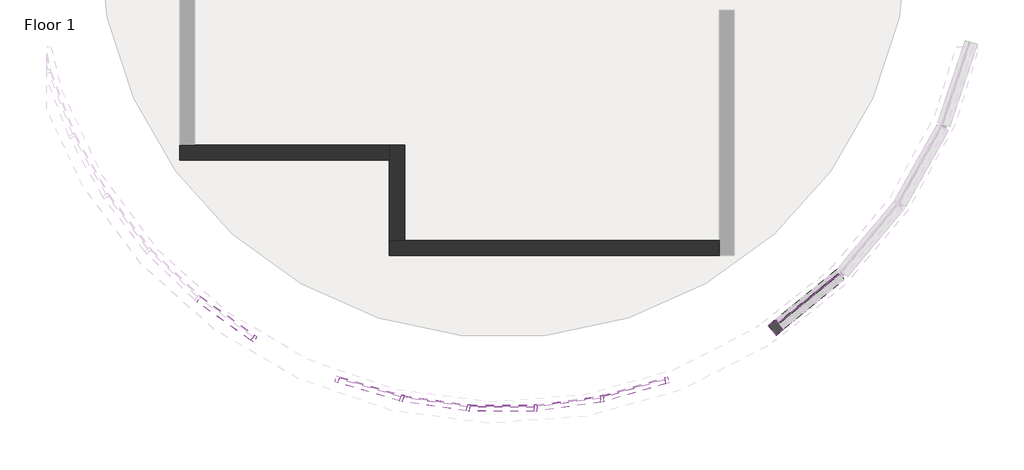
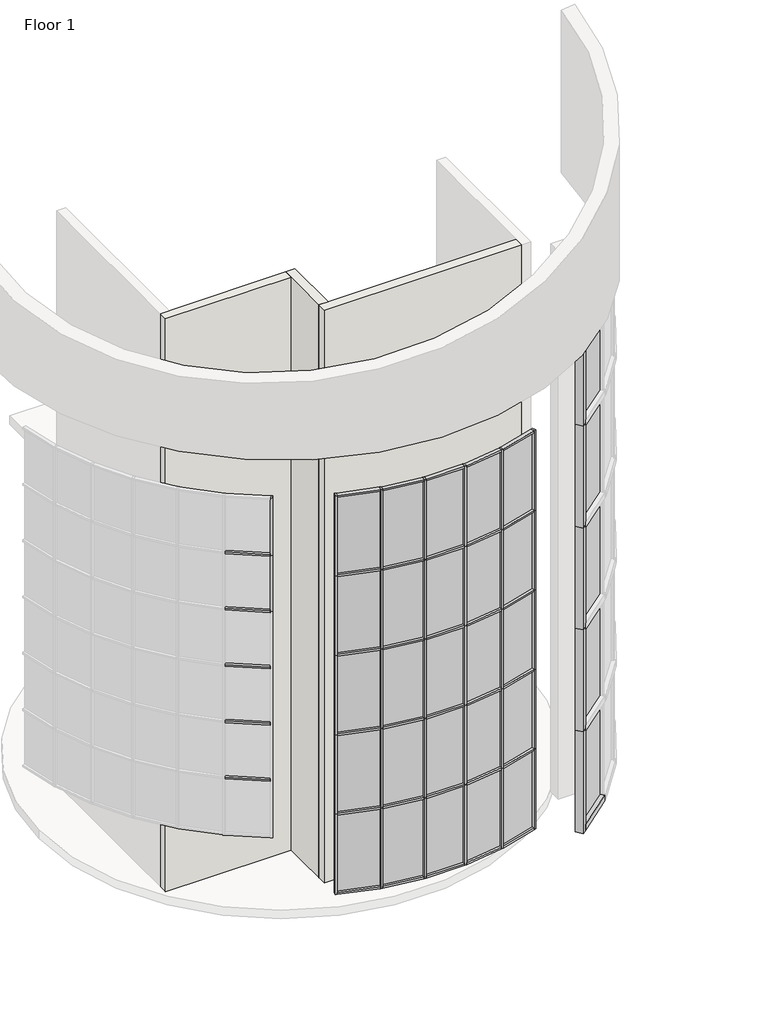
# One storey, part 5 of 11: 73 members, 30 plates, 3 walls.
"""IFC4 building model written with IfcOpenShell, lengths in millimetres."""

from ifc_helpers import new_model, si_unit, origin, place, context, project, spatial, faceted_brep, transform, mapped, element, save
from components import member_1ee05d72, member_0388ecb7, member_7395c1fc, member_652a6926, member_d66ac510, member_25577aa7, member_e54787da, member_d1cb1681, member_275a0903, member_ef0f639d, member_5da9506a, member_3a2f4316, member_60f5540e, member_ac1621ee, member_98c0bc9c, member_4370fb8a, system_panel_glazed_3a20483a, system_panel_glazed_3dc34c55, system_panel_glazed_36e52168, system_panel_glazed_ff630af2, system_panel_glazed_52effc56

model = new_model("IFC4")

# Units and contexts
model_context = context("Model", 3, world=origin())
ifc_project = project(units=[si_unit("LENGTHUNIT", "METRE", prefix="MILLI")], contexts=[model_context])

# Site, building, storey
site = spatial("IfcSite", under=ifc_project)
building = spatial("IfcBuilding", under=site)
storey = spatial("IfcBuildingStorey", under=building, Name="Floor 1", Elevation=0.0)

# Members
placement = place(None, origin())
member_shape = member_1ee05d72(model_context)
element("IfcMember", 1, ObjectType="Rectangular Mullion1 : 2.5\" x 5\" rectangular", at=placement, inside=storey, context=model_context, shape_type="MappedRepresentation", body=[
    mapped(member_shape, transform((9626.5736728, 10239.6743059, 15849.6), x_axis=(0.0, 0.0, 1.0), y_axis=(0.2778402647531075, -0.9606272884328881, 0.0), z_axis=(0.9606272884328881, 0.2778402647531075, 0.0))),
])
element("IfcMember", 2, ObjectType="Rectangular Mullion1 : 2.5\" x 5\" rectangular", at=placement, inside=storey, context=model_context, shape_type="MappedRepresentation", body=[
    mapped(member_shape, transform((2992.9067416, 10256.328301, 1524.0), x_axis=(0.0, 0.0, -1.0), y_axis=(-0.2826600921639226, -0.9592201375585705, 0.0), z_axis=(-0.9592201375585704, 0.28266009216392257, 0.0))),
])
member_2_shape = member_0388ecb7(model_context)
element("IfcMember", 3, ObjectType="Rectangular Mullion1 : 2.5\" x 5\" rectangular", at=placement, inside=storey, context=model_context, shape_type="MappedRepresentation", body=[
    mapped(member_2_shape, transform((4242.5484, 9888.0876725, 15849.6), x_axis=(0.0, 0.0, 1.0), y_axis=(-0.2826600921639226, -0.9592201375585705, 0.0), z_axis=(0.9592201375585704, -0.28266009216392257, 0.0))),
])
member_3_shape = member_7395c1fc(model_context)
element("IfcMember", 4, ObjectType="Rectangular Mullion1 : 2.5\" x 5\" rectangular", at=placement, inside=storey, context=model_context, shape_type="MappedRepresentation", body=[
    mapped(member_3_shape, transform((5593.7638345, 9687.9803536, 15849.6), x_axis=(0.0, 0.0, 1.0), y_axis=(-0.1432223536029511, -0.9896905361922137, 0.0), z_axis=(0.9896905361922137, -0.1432223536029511, 0.0))),
])
element("IfcMember", 5, ObjectType="Rectangular Mullion1 : 2.5\" x 5\" rectangular", at=placement, inside=storey, context=model_context, shape_type="MappedRepresentation", body=[
    mapped(member_3_shape, transform((6959.7006673, 9680.082711, 15849.6), x_axis=(0.0, 0.0, 1.0), y_axis=(-0.0025105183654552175, -0.9999968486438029, 0.0), z_axis=(0.9999968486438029, -0.0025105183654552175, 0.0))),
])
element("IfcMember", 6, ObjectType="Rectangular Mullion1 : 2.5\" x 5\" rectangular", at=placement, inside=storey, context=model_context, shape_type="MappedRepresentation", body=[
    mapped(member_3_shape, transform((8313.1537957, 9864.5018892, 15849.6), x_axis=(0.0, 0.0, 1.0), y_axis=(0.13825129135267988, -0.9903971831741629, 0.0), z_axis=(0.9903971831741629, 0.13825129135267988, 0.0))),
])
element("IfcMember", 7, ObjectType="Rectangular Mullion1 : 2.5\" x 5\" rectangular", at=placement, inside=storey, context=model_context, shape_type="MappedRepresentation", body=[
    mapped(member_3_shape, transform((4304.4263139, 9874.5659049, 1524.0), x_axis=(0.0, 0.0, -1.0), y_axis=(-0.14322235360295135, -0.9896905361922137, 0.0), z_axis=(-0.9896905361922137, 0.14322235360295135, 0.0))),
])
element("IfcMember", 8, ObjectType="Rectangular Mullion1 : 2.5\" x 5\" rectangular", at=placement, inside=storey, context=model_context, shape_type="MappedRepresentation", body=[
    mapped(member_3_shape, transform((5656.9364089, 9683.3533349, 1524.0), x_axis=(0.0, 0.0, -1.0), y_axis=(-0.0025105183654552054, -0.9999968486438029, 0.0), z_axis=(-0.9999968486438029, 0.0025105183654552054, 0.0))),
])
element("IfcMember", 9, ObjectType="Rectangular Mullion1 : 2.5\" x 5\" rectangular", at=placement, inside=storey, context=model_context, shape_type="MappedRepresentation", body=[
    mapped(member_3_shape, transform((7022.8956778, 9684.3924805, 1524.0), x_axis=(0.0, 0.0, -1.0), y_axis=(0.13825129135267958, -0.990397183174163, 0.0), z_axis=(-0.990397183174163, -0.13825129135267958, 0.0))),
])
element("IfcMember", 10, ObjectType="Rectangular Mullion1 : 2.5\" x 5\" rectangular", at=placement, inside=storey, context=model_context, shape_type="MappedRepresentation", body=[
    mapped(member_2_shape, transform((8375.0988227, 9877.7127961, 1524.0), x_axis=(0.0, 0.0, -1.0), y_axis=(0.2778402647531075, -0.9606272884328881, 0.0), z_axis=(-0.9606272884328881, -0.2778402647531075, 0.0))),
])
member_4_shape = member_652a6926(model_context)
element("IfcMember", 11, ObjectType="Rectangular Mullion1 : 2.5\" x 5\" rectangular", at=placement, inside=storey, context=model_context, shape_type="MappedRepresentation", body=[
    mapped(member_4_shape, transform((4242.5484, 9888.0876725, 4408.17), x_axis=(0.0, 0.0, 1.0), y_axis=(-0.2826600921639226, -0.9592201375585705, 0.0), z_axis=(0.9592201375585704, -0.28266009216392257, 0.0))),
])
member_5_shape = member_d66ac510(model_context)
element("IfcMember", 12, ObjectType="Rectangular Mullion1 : 2.5\" x 5\" rectangular", at=placement, inside=storey, context=model_context, shape_type="MappedRepresentation", body=[
    mapped(member_5_shape, transform((5593.7638345, 9687.9803536, 4408.17), x_axis=(0.0, 0.0, 1.0), y_axis=(-0.14322235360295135, -0.9896905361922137, 0.0), z_axis=(0.9896905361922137, -0.14322235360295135, 0.0))),
])
element("IfcMember", 13, ObjectType="Rectangular Mullion1 : 2.5\" x 5\" rectangular", at=placement, inside=storey, context=model_context, shape_type="MappedRepresentation", body=[
    mapped(member_5_shape, transform((6959.7006673, 9680.082711, 4408.17), x_axis=(0.0, 0.0, 1.0), y_axis=(-0.0025105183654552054, -0.9999968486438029, 0.0), z_axis=(0.9999968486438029, -0.0025105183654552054, 0.0))),
])
element("IfcMember", 14, ObjectType="Rectangular Mullion1 : 2.5\" x 5\" rectangular", at=placement, inside=storey, context=model_context, shape_type="MappedRepresentation", body=[
    mapped(member_5_shape, transform((8313.1537957, 9864.5018892, 4408.17), x_axis=(0.0, 0.0, 1.0), y_axis=(0.13825129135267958, -0.990397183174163, 0.0), z_axis=(0.990397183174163, 0.13825129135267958, 0.0))),
])
member_6_shape = member_25577aa7(model_context)
element("IfcMember", 15, ObjectType="Rectangular Mullion1 : 2.5\" x 5\" rectangular", at=placement, inside=storey, context=model_context, shape_type="MappedRepresentation", body=[
    mapped(member_6_shape, transform((9626.5736728, 10239.6743059, 4408.17), x_axis=(0.0, 0.0, 1.0), y_axis=(0.2778402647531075, -0.9606272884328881, 0.0), z_axis=(0.9606272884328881, 0.2778402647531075, 0.0))),
])
element("IfcMember", 16, ObjectType="Rectangular Mullion1 : 2.5\" x 5\" rectangular", at=placement, inside=storey, context=model_context, shape_type="MappedRepresentation", body=[
    mapped(member_4_shape, transform((4242.5484, 9888.0876725, 7260.59), x_axis=(0.0, 0.0, 1.0), y_axis=(-0.2826600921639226, -0.9592201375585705, 0.0), z_axis=(0.9592201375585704, -0.28266009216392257, 0.0))),
])
element("IfcMember", 17, ObjectType="Rectangular Mullion1 : 2.5\" x 5\" rectangular", at=placement, inside=storey, context=model_context, shape_type="MappedRepresentation", body=[
    mapped(member_4_shape, transform((4242.5484, 9888.0876725, 10113.01), x_axis=(0.0, 0.0, 1.0), y_axis=(-0.2826600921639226, -0.9592201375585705, 0.0), z_axis=(0.9592201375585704, -0.28266009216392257, 0.0))),
])
element("IfcMember", 18, ObjectType="Rectangular Mullion1 : 2.5\" x 5\" rectangular", at=placement, inside=storey, context=model_context, shape_type="MappedRepresentation", body=[
    mapped(member_5_shape, transform((5593.7638345, 9687.9803536, 7260.59), x_axis=(0.0, 0.0, 1.0), y_axis=(-0.14322235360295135, -0.9896905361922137, 0.0), z_axis=(0.9896905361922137, -0.14322235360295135, 0.0))),
])
element("IfcMember", 19, ObjectType="Rectangular Mullion1 : 2.5\" x 5\" rectangular", at=placement, inside=storey, context=model_context, shape_type="MappedRepresentation", body=[
    mapped(member_5_shape, transform((6959.7006673, 9680.082711, 7260.59), x_axis=(0.0, 0.0, 1.0), y_axis=(-0.0025105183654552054, -0.9999968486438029, 0.0), z_axis=(0.9999968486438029, -0.0025105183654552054, 0.0))),
])
element("IfcMember", 20, ObjectType="Rectangular Mullion1 : 2.5\" x 5\" rectangular", at=placement, inside=storey, context=model_context, shape_type="MappedRepresentation", body=[
    mapped(member_5_shape, transform((8313.1537957, 9864.5018892, 7260.59), x_axis=(0.0, 0.0, 1.0), y_axis=(0.13825129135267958, -0.990397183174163, 0.0), z_axis=(0.990397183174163, 0.13825129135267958, 0.0))),
])
element("IfcMember", 21, ObjectType="Rectangular Mullion1 : 2.5\" x 5\" rectangular", at=placement, inside=storey, context=model_context, shape_type="MappedRepresentation", body=[
    mapped(member_5_shape, transform((5593.7638345, 9687.9803536, 10113.01), x_axis=(0.0, 0.0, 1.0), y_axis=(-0.14322235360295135, -0.9896905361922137, 0.0), z_axis=(0.9896905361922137, -0.14322235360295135, 0.0))),
])
element("IfcMember", 22, ObjectType="Rectangular Mullion1 : 2.5\" x 5\" rectangular", at=placement, inside=storey, context=model_context, shape_type="MappedRepresentation", body=[
    mapped(member_5_shape, transform((6959.7006673, 9680.082711, 10113.01), x_axis=(0.0, 0.0, 1.0), y_axis=(-0.0025105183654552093, -0.9999968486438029, 0.0), z_axis=(0.9999968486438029, -0.0025105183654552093, 0.0))),
])
element("IfcMember", 23, ObjectType="Rectangular Mullion1 : 2.5\" x 5\" rectangular", at=placement, inside=storey, context=model_context, shape_type="MappedRepresentation", body=[
    mapped(member_5_shape, transform((8313.1537957, 9864.5018892, 10113.01), x_axis=(0.0, 0.0, 1.0), y_axis=(0.13825129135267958, -0.990397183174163, 0.0), z_axis=(0.990397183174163, 0.13825129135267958, 0.0))),
])
element("IfcMember", 24, ObjectType="Rectangular Mullion1 : 2.5\" x 5\" rectangular", at=placement, inside=storey, context=model_context, shape_type="MappedRepresentation", body=[
    mapped(member_6_shape, transform((9626.5736728, 10239.6743059, 7260.59), x_axis=(0.0, 0.0, 1.0), y_axis=(0.2778402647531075, -0.9606272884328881, 0.0), z_axis=(0.9606272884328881, 0.2778402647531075, 0.0))),
])
element("IfcMember", 25, ObjectType="Rectangular Mullion1 : 2.5\" x 5\" rectangular", at=placement, inside=storey, context=model_context, shape_type="MappedRepresentation", body=[
    mapped(member_6_shape, transform((9626.5736728, 10239.6743059, 10113.01), x_axis=(0.0, 0.0, 1.0), y_axis=(0.2778402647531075, -0.9606272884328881, 0.0), z_axis=(0.9606272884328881, 0.2778402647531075, 0.0))),
])
element("IfcMember", 26, ObjectType="Rectangular Mullion1 : 2.5\" x 5\" rectangular", at=placement, inside=storey, context=model_context, shape_type="MappedRepresentation", body=[
    mapped(member_4_shape, transform((4242.5484, 9888.0876725, 12965.43), x_axis=(0.0, 0.0, 1.0), y_axis=(-0.2826600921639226, -0.9592201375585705, 0.0), z_axis=(0.9592201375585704, -0.28266009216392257, 0.0))),
])
element("IfcMember", 27, ObjectType="Rectangular Mullion1 : 2.5\" x 5\" rectangular", at=placement, inside=storey, context=model_context, shape_type="MappedRepresentation", body=[
    mapped(member_5_shape, transform((5593.7638345, 9687.9803536, 12965.43), x_axis=(0.0, 0.0, 1.0), y_axis=(-0.14322235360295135, -0.9896905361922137, 0.0), z_axis=(0.9896905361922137, -0.14322235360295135, 0.0))),
])
element("IfcMember", 28, ObjectType="Rectangular Mullion1 : 2.5\" x 5\" rectangular", at=placement, inside=storey, context=model_context, shape_type="MappedRepresentation", body=[
    mapped(member_5_shape, transform((6959.7006673, 9680.082711, 12965.43), x_axis=(0.0, 0.0, 1.0), y_axis=(-0.0025105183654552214, -0.9999968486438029, 0.0), z_axis=(0.9999968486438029, -0.0025105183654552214, 0.0))),
])
element("IfcMember", 29, ObjectType="Rectangular Mullion1 : 2.5\" x 5\" rectangular", at=placement, inside=storey, context=model_context, shape_type="MappedRepresentation", body=[
    mapped(member_5_shape, transform((8313.1537957, 9864.5018892, 12965.43), x_axis=(0.0, 0.0, 1.0), y_axis=(0.13825129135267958, -0.990397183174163, 0.0), z_axis=(0.990397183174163, 0.13825129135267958, 0.0))),
])
element("IfcMember", 30, ObjectType="Rectangular Mullion1 : 2.5\" x 5\" rectangular", at=placement, inside=storey, context=model_context, shape_type="MappedRepresentation", body=[
    mapped(member_6_shape, transform((9626.5736728, 10239.6743059, 12965.43), x_axis=(0.0, 0.0, 1.0), y_axis=(0.2778402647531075, -0.9606272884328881, 0.0), z_axis=(0.9606272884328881, 0.2778402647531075, 0.0))),
])
member_7_shape = member_e54787da(model_context)
element("IfcMember", 31, ObjectType="Rectangular Mullion1 : 2.5\" x 5\" rectangular", at=placement, inside=storey, context=model_context, shape_type="MappedRepresentation", body=[
    mapped(member_7_shape, transform((4273.0036394, 9879.1132146, 1524.0), x_axis=(0.9771213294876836, -0.21268264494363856, 0.0), y_axis=(-0.21268264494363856, -0.9771213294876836, 0.0), z_axis=(0.0, 0.0, -1.0))),
])
element("IfcMember", 32, ObjectType="Rectangular Mullion1 : 2.5\" x 5\" rectangular", at=placement, inside=storey, context=model_context, shape_type="MappedRepresentation", body=[
    mapped(member_7_shape, transform((5625.186509, 9683.4330439, 1524.0), x_axis=(0.9973283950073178, -0.07304842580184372, 0.0), y_axis=(-0.07304842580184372, -0.9973283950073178, 0.0), z_axis=(0.0, 0.0, -1.0))),
])
element("IfcMember", 33, ObjectType="Rectangular Mullion1 : 2.5\" x 5\" rectangular", at=placement, inside=storey, context=model_context, shape_type="MappedRepresentation", body=[
    mapped(member_7_shape, transform((6991.4505673, 9680.003002, 1524.0), x_axis=(0.9976826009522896, 0.06803989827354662, 0.0), y_axis=(0.06803989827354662, -0.9976826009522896, 0.0), z_axis=(0.0, 0.0, -1.0))),
])
element("IfcMember", 34, ObjectType="Rectangular Mullion1 : 2.5\" x 5\" rectangular", at=placement, inside=storey, context=model_context, shape_type="MappedRepresentation", body=[
    mapped(member_7_shape, transform((8344.5989063, 9868.8913677, 1524.0), x_axis=(0.9781768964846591, 0.20777381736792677, 0.0), y_axis=(0.20777381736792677, -0.9781768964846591, 0.0), z_axis=(0.0, 0.0, -1.0))),
])
member_8_shape = member_d1cb1681(model_context)
element("IfcMember", 35, ObjectType="Rectangular Mullion1 : 2.5\" x 5\" rectangular", at=placement, inside=storey, context=model_context, shape_type="MappedRepresentation", body=[
    mapped(member_8_shape, transform((4273.0036394, 9879.1132146, 4408.17), x_axis=(0.9771213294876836, -0.21268264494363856, 0.0), y_axis=(-0.21268264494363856, -0.9771213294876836, 0.0), z_axis=(0.0, 0.0, -1.0))),
])
element("IfcMember", 36, ObjectType="Rectangular Mullion1 : 2.5\" x 5\" rectangular", at=placement, inside=storey, context=model_context, shape_type="MappedRepresentation", body=[
    mapped(member_8_shape, transform((5625.186509, 9683.4330439, 4408.17), x_axis=(0.9973283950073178, -0.07304842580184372, 0.0), y_axis=(-0.07304842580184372, -0.9973283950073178, 0.0), z_axis=(0.0, 0.0, -1.0))),
])
element("IfcMember", 37, ObjectType="Rectangular Mullion1 : 2.5\" x 5\" rectangular", at=placement, inside=storey, context=model_context, shape_type="MappedRepresentation", body=[
    mapped(member_8_shape, transform((6991.4505673, 9680.003002, 4408.17), x_axis=(0.9976826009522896, 0.06803989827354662, 0.0), y_axis=(0.06803989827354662, -0.9976826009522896, 0.0), z_axis=(0.0, 0.0, -1.0))),
])
element("IfcMember", 38, ObjectType="Rectangular Mullion1 : 2.5\" x 5\" rectangular", at=placement, inside=storey, context=model_context, shape_type="MappedRepresentation", body=[
    mapped(member_8_shape, transform((8344.5989063, 9868.8913677, 4408.17), x_axis=(0.9781768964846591, 0.20777381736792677, 0.0), y_axis=(0.20777381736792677, -0.9781768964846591, 0.0), z_axis=(0.0, 0.0, -1.0))),
])
element("IfcMember", 39, ObjectType="Rectangular Mullion1 : 2.5\" x 5\" rectangular", at=placement, inside=storey, context=model_context, shape_type="MappedRepresentation", body=[
    mapped(member_8_shape, transform((4273.0036394, 9879.1132146, 7260.59), x_axis=(0.9771213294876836, -0.21268264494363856, 0.0), y_axis=(-0.21268264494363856, -0.9771213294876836, 0.0), z_axis=(0.0, 0.0, -1.0))),
])
element("IfcMember", 40, ObjectType="Rectangular Mullion1 : 2.5\" x 5\" rectangular", at=placement, inside=storey, context=model_context, shape_type="MappedRepresentation", body=[
    mapped(member_8_shape, transform((5625.186509, 9683.4330439, 7260.59), x_axis=(0.9973283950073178, -0.07304842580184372, 0.0), y_axis=(-0.07304842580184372, -0.9973283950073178, 0.0), z_axis=(0.0, 0.0, -1.0))),
])
element("IfcMember", 41, ObjectType="Rectangular Mullion1 : 2.5\" x 5\" rectangular", at=placement, inside=storey, context=model_context, shape_type="MappedRepresentation", body=[
    mapped(member_8_shape, transform((6991.4505673, 9680.003002, 7260.59), x_axis=(0.9976826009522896, 0.06803989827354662, 0.0), y_axis=(0.06803989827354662, -0.9976826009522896, 0.0), z_axis=(0.0, 0.0, -1.0))),
])
element("IfcMember", 42, ObjectType="Rectangular Mullion1 : 2.5\" x 5\" rectangular", at=placement, inside=storey, context=model_context, shape_type="MappedRepresentation", body=[
    mapped(member_8_shape, transform((8344.5989063, 9868.8913677, 7260.59), x_axis=(0.9781768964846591, 0.20777381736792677, 0.0), y_axis=(0.20777381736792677, -0.9781768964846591, 0.0), z_axis=(0.0, 0.0, -1.0))),
])
element("IfcMember", 43, ObjectType="Rectangular Mullion1 : 2.5\" x 5\" rectangular", at=placement, inside=storey, context=model_context, shape_type="MappedRepresentation", body=[
    mapped(member_8_shape, transform((4273.0036394, 9879.1132146, 10113.01), x_axis=(0.9771213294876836, -0.21268264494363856, 0.0), y_axis=(-0.21268264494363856, -0.9771213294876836, 0.0), z_axis=(0.0, 0.0, -1.0))),
])
element("IfcMember", 44, ObjectType="Rectangular Mullion1 : 2.5\" x 5\" rectangular", at=placement, inside=storey, context=model_context, shape_type="MappedRepresentation", body=[
    mapped(member_8_shape, transform((5625.186509, 9683.4330439, 10113.01), x_axis=(0.9973283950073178, -0.07304842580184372, 0.0), y_axis=(-0.07304842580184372, -0.9973283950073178, 0.0), z_axis=(0.0, 0.0, -1.0))),
])
element("IfcMember", 45, ObjectType="Rectangular Mullion1 : 2.5\" x 5\" rectangular", at=placement, inside=storey, context=model_context, shape_type="MappedRepresentation", body=[
    mapped(member_8_shape, transform((6991.4505673, 9680.003002, 10113.01), x_axis=(0.9976826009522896, 0.06803989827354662, 0.0), y_axis=(0.06803989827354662, -0.9976826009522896, 0.0), z_axis=(0.0, 0.0, -1.0))),
])
element("IfcMember", 46, ObjectType="Rectangular Mullion1 : 2.5\" x 5\" rectangular", at=placement, inside=storey, context=model_context, shape_type="MappedRepresentation", body=[
    mapped(member_8_shape, transform((8344.5989063, 9868.8913677, 10113.01), x_axis=(0.9781768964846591, 0.20777381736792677, 0.0), y_axis=(0.20777381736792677, -0.9781768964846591, 0.0), z_axis=(0.0, 0.0, -1.0))),
])
element("IfcMember", 47, ObjectType="Rectangular Mullion1 : 2.5\" x 5\" rectangular", at=placement, inside=storey, context=model_context, shape_type="MappedRepresentation", body=[
    mapped(member_7_shape, transform((4273.0036394, 9879.1132146, 12965.43), x_axis=(0.9771213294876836, -0.21268264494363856, 0.0), y_axis=(-0.21268264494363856, -0.9771213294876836, 0.0), z_axis=(0.0, 0.0, -1.0))),
])
element("IfcMember", 48, ObjectType="Rectangular Mullion1 : 2.5\" x 5\" rectangular", at=placement, inside=storey, context=model_context, shape_type="MappedRepresentation", body=[
    mapped(member_7_shape, transform((5625.186509, 9683.4330439, 12965.43), x_axis=(0.9973283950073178, -0.07304842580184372, 0.0), y_axis=(-0.07304842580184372, -0.9973283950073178, 0.0), z_axis=(0.0, 0.0, -1.0))),
])
element("IfcMember", 49, ObjectType="Rectangular Mullion1 : 2.5\" x 5\" rectangular", at=placement, inside=storey, context=model_context, shape_type="MappedRepresentation", body=[
    mapped(member_7_shape, transform((6991.4505673, 9680.003002, 12965.43), x_axis=(0.9976826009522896, 0.06803989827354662, 0.0), y_axis=(0.06803989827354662, -0.9976826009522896, 0.0), z_axis=(0.0, 0.0, -1.0))),
])
element("IfcMember", 50, ObjectType="Rectangular Mullion1 : 2.5\" x 5\" rectangular", at=placement, inside=storey, context=model_context, shape_type="MappedRepresentation", body=[
    mapped(member_7_shape, transform((8344.5989063, 9868.8913677, 12965.43), x_axis=(0.9781768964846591, 0.20777381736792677, 0.0), y_axis=(0.20777381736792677, -0.9781768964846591, 0.0), z_axis=(0.0, 0.0, -1.0))),
])
member_9_shape = member_275a0903(model_context)
element("IfcMember", 51, ObjectType="Rectangular Mullion1 : 2.5\" x 5\" rectangular", at=placement, inside=storey, context=model_context, shape_type="MappedRepresentation", body=[
    mapped(member_9_shape, transform((1235.4610146, 11112.8592493, 5710.7666667), x_axis=(0.0, 0.0, 1.0), y_axis=(-0.5828238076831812, -0.8125985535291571, 0.0), z_axis=(0.8125985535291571, -0.5828238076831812, 0.0))),
])
element("IfcMember", 52, ObjectType="Rectangular Mullion1 : 2.5\" x 5\" rectangular", at=placement, inside=storey, context=model_context, shape_type="MappedRepresentation", body=[
    mapped(member_9_shape, transform((1235.4610146, 11112.8592493, 7732.1833333), x_axis=(0.0, 0.0, 1.0), y_axis=(-0.5828238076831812, -0.8125985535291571, 0.0), z_axis=(0.8125985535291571, -0.5828238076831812, 0.0))),
])
element("IfcMember", 53, ObjectType="Rectangular Mullion1 : 2.5\" x 5\" rectangular", at=placement, inside=storey, context=model_context, shape_type="MappedRepresentation", body=[
    mapped(member_9_shape, transform((1235.4610146, 11112.8592493, 9753.6), x_axis=(0.0, 0.0, 1.0), y_axis=(-0.5828238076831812, -0.8125985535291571, 0.0), z_axis=(0.8125985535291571, -0.5828238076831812, 0.0))),
])
element("IfcMember", 54, ObjectType="Rectangular Mullion1 : 2.5\" x 5\" rectangular", at=placement, inside=storey, context=model_context, shape_type="MappedRepresentation", body=[
    mapped(member_9_shape, transform((1235.4610146, 11112.8592493, 11775.0166667), x_axis=(0.0, 0.0, 1.0), y_axis=(-0.5828238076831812, -0.8125985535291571, 0.0), z_axis=(0.8125985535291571, -0.5828238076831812, 0.0))),
])
element("IfcMember", 55, ObjectType="Rectangular Mullion1 : 2.5\" x 5\" rectangular", at=placement, inside=storey, context=model_context, shape_type="MappedRepresentation", body=[
    mapped(member_9_shape, transform((1235.4610146, 11112.8592493, 13796.4333333), x_axis=(0.0, 0.0, 1.0), y_axis=(-0.5828238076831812, -0.8125985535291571, 0.0), z_axis=(0.8125985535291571, -0.5828238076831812, 0.0))),
])
member_10_shape = member_ef0f639d(model_context)
element("IfcMember", 56, ObjectType="Rectangular Mullion1 : 2.5\" x 5\" rectangular", at=placement, inside=storey, context=model_context, shape_type="MappedRepresentation", body=[
    mapped(member_10_shape, transform((9687.5735056, 10257.3171627, 1524.0), x_axis=(0.9606272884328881, 0.2778402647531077, 0.0), y_axis=(0.2778402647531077, -0.9606272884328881, 0.0), z_axis=(0.0, 0.0, -1.0))),
])
element("IfcMember", 57, ObjectType="Rectangular Mullion1 : 2.5\" x 5\" rectangular", at=placement, inside=storey, context=model_context, shape_type="MappedRepresentation", body=[
    mapped(member_10_shape, transform((2931.9962628, 10274.2772169, 15849.6), x_axis=(-0.9592201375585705, 0.2826600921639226, 0.0), y_axis=(-0.2826600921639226, -0.9592201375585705, 0.0), z_axis=(0.0, 0.0, 1.0))),
])
member_11_shape = member_5da9506a(model_context)
element("IfcMember", 58, ObjectType="Rectangular Mullion1 : 2.5\" x 5\" rectangular", at=placement, inside=storey, context=model_context, shape_type="MappedRepresentation", body=[
    mapped(member_11_shape, transform((9687.5735056, 10257.3171627, 4408.17), x_axis=(0.9606272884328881, 0.27784026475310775, 0.0), y_axis=(0.27784026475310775, -0.9606272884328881, 0.0), z_axis=(0.0, 0.0, -1.0))),
])
element("IfcMember", 59, ObjectType="Rectangular Mullion1 : 2.5\" x 5\" rectangular", at=placement, inside=storey, context=model_context, shape_type="MappedRepresentation", body=[
    mapped(member_11_shape, transform((9687.5735056, 10257.3171627, 7260.59), x_axis=(0.9606272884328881, 0.27784026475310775, 0.0), y_axis=(0.27784026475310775, -0.9606272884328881, 0.0), z_axis=(0.0, 0.0, -1.0))),
])
element("IfcMember", 60, ObjectType="Rectangular Mullion1 : 2.5\" x 5\" rectangular", at=placement, inside=storey, context=model_context, shape_type="MappedRepresentation", body=[
    mapped(member_11_shape, transform((9687.5735056, 10257.3171627, 10113.01), x_axis=(0.9606272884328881, 0.27784026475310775, 0.0), y_axis=(0.27784026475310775, -0.9606272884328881, 0.0), z_axis=(0.0, 0.0, -1.0))),
])
element("IfcMember", 61, ObjectType="Rectangular Mullion1 : 2.5\" x 5\" rectangular", at=placement, inside=storey, context=model_context, shape_type="MappedRepresentation", body=[
    mapped(member_10_shape, transform((9687.5735056, 10257.3171627, 12965.43), x_axis=(0.9606272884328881, 0.2778402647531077, 0.0), y_axis=(0.2778402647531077, -0.9606272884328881, 0.0), z_axis=(0.0, 0.0, -1.0))),
])
element("IfcMember", 62, ObjectType="Rectangular Mullion1 : 2.5\" x 5\" rectangular", at=placement, inside=storey, context=model_context, shape_type="MappedRepresentation", body=[
    mapped(member_10_shape, transform((2931.9962628, 10274.2772169, 4408.17), x_axis=(-0.9592201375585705, 0.2826600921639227, 0.0), y_axis=(-0.2826600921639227, -0.9592201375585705, 0.0), z_axis=(0.0, 0.0, 1.0))),
])
element("IfcMember", 63, ObjectType="Rectangular Mullion1 : 2.5\" x 5\" rectangular", at=placement, inside=storey, context=model_context, shape_type="MappedRepresentation", body=[
    mapped(member_11_shape, transform((2931.9962628, 10274.2772169, 7260.59), x_axis=(-0.9592201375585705, 0.2826600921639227, 0.0), y_axis=(-0.2826600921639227, -0.9592201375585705, 0.0), z_axis=(0.0, 0.0, 1.0))),
])
element("IfcMember", 64, ObjectType="Rectangular Mullion1 : 2.5\" x 5\" rectangular", at=placement, inside=storey, context=model_context, shape_type="MappedRepresentation", body=[
    mapped(member_11_shape, transform((2931.9962628, 10274.2772169, 10113.01), x_axis=(-0.9592201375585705, 0.2826600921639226, 0.0), y_axis=(-0.2826600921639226, -0.9592201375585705, 0.0), z_axis=(0.0, 0.0, 1.0))),
])
element("IfcMember", 65, ObjectType="Rectangular Mullion1 : 2.5\" x 5\" rectangular", at=placement, inside=storey, context=model_context, shape_type="MappedRepresentation", body=[
    mapped(member_11_shape, transform((2931.9962628, 10274.2772169, 12965.43), x_axis=(-0.9592201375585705, 0.2826600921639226, 0.0), y_axis=(-0.2826600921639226, -0.9592201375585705, 0.0), z_axis=(0.0, 0.0, 1.0))),
])
member_12_shape = member_3a2f4316(model_context)
element("IfcMember", 66, ObjectType="Rectangular Mullion1 : 2.5\" x 5\" rectangular", at=placement, inside=storey, context=model_context, shape_type="MappedRepresentation", body=[
    mapped(member_12_shape, transform((1287.0610227, 11075.8499375, 11775.0166667), x_axis=(0.8125985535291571, -0.5828238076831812, 0.0), y_axis=(-0.5828238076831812, -0.8125985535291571, 0.0), z_axis=(0.0, 0.0, -1.0))),
])
member_13_shape = member_60f5540e(model_context)
element("IfcMember", 67, ObjectType="Rectangular Mullion1 : 2.5\" x 5\" rectangular", at=placement, inside=storey, context=model_context, shape_type="MappedRepresentation", body=[
    mapped(member_13_shape, transform((1287.0610227, 11075.8499375, 13796.4333333), x_axis=(0.8125985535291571, -0.5828238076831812, 0.0), y_axis=(-0.5828238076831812, -0.8125985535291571, 0.0), z_axis=(0.0, 0.0, -1.0))),
])
member_14_shape = member_ac1621ee(model_context)
element("IfcMember", 68, ObjectType="Rectangular Mullion1 : 8\" x 10\" rectangular", at=placement, inside=storey, context=model_context, shape_type="MappedRepresentation", body=[
    mapped(member_14_shape, transform((11956.7860611, 11392.3328441, 0.0), x_axis=(0.0, 0.0, -1.0), y_axis=(0.6325919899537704, -0.7744852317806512, 0.0), z_axis=(-0.7744852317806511, -0.6325919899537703, 0.0))),
])
member_15_shape = member_98c0bc9c(model_context)
element("IfcMember", 69, ObjectType="Rectangular Mullion1 : 8\" x 10\" rectangular", at=placement, inside=storey, context=model_context, shape_type="MappedRepresentation", body=[
    mapped(member_15_shape, transform((11799.410662, 11263.7901518, 14630.4), x_axis=(-0.7744852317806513, -0.6325919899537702, 0.0), y_axis=(0.6325919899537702, -0.7744852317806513, 0.0), z_axis=(0.0, 0.0, 1.0))),
])
element("IfcMember", 70, ObjectType="Rectangular Mullion1 : 8\" x 10\" rectangular", at=placement, inside=storey, context=model_context, shape_type="MappedRepresentation", body=[
    mapped(member_15_shape, transform((11799.410662, 11263.7901518, 10972.8), x_axis=(-0.7744852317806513, -0.6325919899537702, 0.0), y_axis=(0.6325919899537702, -0.7744852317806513, 0.0), z_axis=(0.0, 0.0, 1.0))),
])
element("IfcMember", 71, ObjectType="Rectangular Mullion1 : 8\" x 10\" rectangular", at=placement, inside=storey, context=model_context, shape_type="MappedRepresentation", body=[
    mapped(member_15_shape, transform((11799.410662, 11263.7901518, 7315.2), x_axis=(-0.7744852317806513, -0.6325919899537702, 0.0), y_axis=(0.6325919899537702, -0.7744852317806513, 0.0), z_axis=(0.0, 0.0, 1.0))),
])
element("IfcMember", 72, ObjectType="Rectangular Mullion1 : 8\" x 10\" rectangular", at=placement, inside=storey, context=model_context, shape_type="MappedRepresentation", body=[
    mapped(member_15_shape, transform((11799.410662, 11263.7901518, 3657.6), x_axis=(-0.7744852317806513, -0.6325919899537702, 0.0), y_axis=(0.6325919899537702, -0.7744852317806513, 0.0), z_axis=(0.0, 0.0, 1.0))),
])
member_16_shape = member_4370fb8a(model_context)
element("IfcMember", 73, ObjectType="Rectangular Mullion1 : 8\" x 10\" rectangular", at=placement, inside=storey, context=model_context, shape_type="MappedRepresentation", body=[
    mapped(member_16_shape, transform((11799.410662, 11263.7901518, 17373.6), x_axis=(-0.7744852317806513, -0.6325919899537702, 0.0), y_axis=(0.6325919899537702, -0.7744852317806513, 0.0), z_axis=(0.0, 0.0, 1.0))),
])

# Plates
system_panel_glazed_shape = system_panel_glazed_3a20483a(model_context)
element("IfcPlate", 74, ObjectType="System Panel : Glazed", at=placement, inside=storey, context=model_context, shape_type="MappedRepresentation", body=[
    mapped(system_panel_glazed_shape, transform((3617.7275708, 10072.2079868, 1587.5), x_axis=(0.9592201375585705, -0.2826600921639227, 0.0), y_axis=(0.2826600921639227, 0.9592201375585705, 0.0), z_axis=(0.0, 0.0, 1.0))),
])
element("IfcPlate", 75, ObjectType="System Panel : Glazed", at=placement, inside=storey, context=model_context, shape_type="MappedRepresentation", body=[
    mapped(system_panel_glazed_shape, transform((9000.8362478, 10058.693551, 1587.5), x_axis=(0.9606272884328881, 0.2778402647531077, 0.0), y_axis=(-0.2778402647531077, 0.9606272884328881, 0.0), z_axis=(0.0, 0.0, 1.0))),
])
element("IfcPlate", 76, ObjectType="System Panel : Glazed", at=placement, inside=storey, context=model_context, shape_type="MappedRepresentation", body=[
    mapped(system_panel_glazed_shape, transform((3617.7275708, 10072.2079868, 4439.92), x_axis=(0.9592201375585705, -0.2826600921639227, 0.0), y_axis=(0.2826600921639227, 0.9592201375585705, 0.0), z_axis=(0.0, 0.0, 1.0))),
])
element("IfcPlate", 77, ObjectType="System Panel : Glazed", at=placement, inside=storey, context=model_context, shape_type="MappedRepresentation", body=[
    mapped(system_panel_glazed_shape, transform((9000.8362478, 10058.693551, 4439.92), x_axis=(0.9606272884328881, 0.27784026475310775, 0.0), y_axis=(-0.27784026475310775, 0.9606272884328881, 0.0), z_axis=(0.0, 0.0, 1.0))),
])
element("IfcPlate", 78, ObjectType="System Panel : Glazed", at=placement, inside=storey, context=model_context, shape_type="MappedRepresentation", body=[
    mapped(system_panel_glazed_shape, transform((3617.7275708, 10072.2079868, 7292.34), x_axis=(0.9592201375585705, -0.2826600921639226, 0.0), y_axis=(0.2826600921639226, 0.9592201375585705, 0.0), z_axis=(0.0, 0.0, 1.0))),
])
element("IfcPlate", 79, ObjectType="System Panel : Glazed", at=placement, inside=storey, context=model_context, shape_type="MappedRepresentation", body=[
    mapped(system_panel_glazed_shape, transform((9000.8362478, 10058.693551, 7292.34), x_axis=(0.9606272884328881, 0.27784026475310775, 0.0), y_axis=(-0.27784026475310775, 0.9606272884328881, 0.0), z_axis=(0.0, 0.0, 1.0))),
])
element("IfcPlate", 80, ObjectType="System Panel : Glazed", at=placement, inside=storey, context=model_context, shape_type="MappedRepresentation", body=[
    mapped(system_panel_glazed_shape, transform((3617.7275708, 10072.2079868, 10144.76), x_axis=(0.9592201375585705, -0.2826600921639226, 0.0), y_axis=(0.2826600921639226, 0.9592201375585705, 0.0), z_axis=(0.0, 0.0, 1.0))),
])
element("IfcPlate", 81, ObjectType="System Panel : Glazed", at=placement, inside=storey, context=model_context, shape_type="MappedRepresentation", body=[
    mapped(system_panel_glazed_shape, transform((9000.8362478, 10058.693551, 10144.76), x_axis=(0.9606272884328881, 0.27784026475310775, 0.0), y_axis=(-0.27784026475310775, 0.9606272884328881, 0.0), z_axis=(0.0, 0.0, 1.0))),
])
element("IfcPlate", 82, ObjectType="System Panel : Glazed", at=placement, inside=storey, context=model_context, shape_type="MappedRepresentation", body=[
    mapped(system_panel_glazed_shape, transform((3617.7275708, 10072.2079868, 12997.18), x_axis=(0.9592201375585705, -0.2826600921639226, 0.0), y_axis=(0.2826600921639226, 0.9592201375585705, 0.0), z_axis=(0.0, 0.0, 1.0))),
])
element("IfcPlate", 83, ObjectType="System Panel : Glazed", at=placement, inside=storey, context=model_context, shape_type="MappedRepresentation", body=[
    mapped(system_panel_glazed_shape, transform((9000.8362478, 10058.693551, 12997.18), x_axis=(0.9606272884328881, 0.2778402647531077, 0.0), y_axis=(-0.2778402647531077, 0.9606272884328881, 0.0), z_axis=(0.0, 0.0, 1.0))),
])
system_panel_glazed_2_shape = system_panel_glazed_3dc34c55(model_context)
element("IfcPlate", 84, ObjectType="System Panel : Glazed", at=placement, inside=storey, context=model_context, shape_type="MappedRepresentation", body=[
    mapped(system_panel_glazed_2_shape, transform((12573.9927082, 11896.4612188, 203.2), x_axis=(0.7744852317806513, 0.6325919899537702, 0.0), y_axis=(-0.6325919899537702, 0.7744852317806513, 0.0), z_axis=(0.0, 0.0, 1.0))),
])
system_panel_glazed_3_shape = system_panel_glazed_36e52168(model_context)
element("IfcPlate", 85, ObjectType="System Panel : Glazed", at=placement, inside=storey, context=model_context, shape_type="MappedRepresentation", body=[
    mapped(system_panel_glazed_3_shape, transform((4949.0950742, 9781.2731292, 1587.5), x_axis=(0.9896905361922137, -0.14322235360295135, 0.0), y_axis=(0.14322235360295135, 0.9896905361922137, 0.0), z_axis=(0.0, 0.0, 1.0))),
])
element("IfcPlate", 86, ObjectType="System Panel : Glazed", at=placement, inside=storey, context=model_context, shape_type="MappedRepresentation", body=[
    mapped(system_panel_glazed_3_shape, transform((6308.3185381, 9681.7180229, 1587.5), x_axis=(0.9999968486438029, -0.0025105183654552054, 0.0), y_axis=(0.0025105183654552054, 0.9999968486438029, 0.0), z_axis=(0.0, 0.0, 1.0))),
])
element("IfcPlate", 87, ObjectType="System Panel : Glazed", at=placement, inside=storey, context=model_context, shape_type="MappedRepresentation", body=[
    mapped(system_panel_glazed_3_shape, transform((7668.0247368, 9774.4471849, 1587.5), x_axis=(0.990397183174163, 0.13825129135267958, 0.0), y_axis=(-0.13825129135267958, 0.990397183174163, 0.0), z_axis=(0.0, 0.0, 1.0))),
])
element("IfcPlate", 88, ObjectType="System Panel : Glazed", at=placement, inside=storey, context=model_context, shape_type="MappedRepresentation", body=[
    mapped(system_panel_glazed_3_shape, transform((4949.0950742, 9781.2731292, 4439.92), x_axis=(0.9896905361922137, -0.14322235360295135, 0.0), y_axis=(0.14322235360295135, 0.9896905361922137, 0.0), z_axis=(0.0, 0.0, 1.0))),
])
element("IfcPlate", 89, ObjectType="System Panel : Glazed", at=placement, inside=storey, context=model_context, shape_type="MappedRepresentation", body=[
    mapped(system_panel_glazed_3_shape, transform((6308.3185381, 9681.7180229, 4439.92), x_axis=(0.9999968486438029, -0.0025105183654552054, 0.0), y_axis=(0.0025105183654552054, 0.9999968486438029, 0.0), z_axis=(0.0, 0.0, 1.0))),
])
element("IfcPlate", 90, ObjectType="System Panel : Glazed", at=placement, inside=storey, context=model_context, shape_type="MappedRepresentation", body=[
    mapped(system_panel_glazed_3_shape, transform((7668.0247368, 9774.4471849, 4439.92), x_axis=(0.990397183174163, 0.13825129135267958, 0.0), y_axis=(-0.13825129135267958, 0.990397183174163, 0.0), z_axis=(0.0, 0.0, 1.0))),
])
element("IfcPlate", 91, ObjectType="System Panel : Glazed", at=placement, inside=storey, context=model_context, shape_type="MappedRepresentation", body=[
    mapped(system_panel_glazed_3_shape, transform((4949.0950742, 9781.2731292, 7292.34), x_axis=(0.9896905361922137, -0.14322235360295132, 0.0), y_axis=(0.14322235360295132, 0.9896905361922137, 0.0), z_axis=(0.0, 0.0, 1.0))),
])
element("IfcPlate", 92, ObjectType="System Panel : Glazed", at=placement, inside=storey, context=model_context, shape_type="MappedRepresentation", body=[
    mapped(system_panel_glazed_3_shape, transform((6308.3185381, 9681.7180229, 7292.34), x_axis=(0.9999968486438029, -0.002510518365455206, 0.0), y_axis=(0.002510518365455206, 0.9999968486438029, 0.0), z_axis=(0.0, 0.0, 1.0))),
])
element("IfcPlate", 93, ObjectType="System Panel : Glazed", at=placement, inside=storey, context=model_context, shape_type="MappedRepresentation", body=[
    mapped(system_panel_glazed_3_shape, transform((7668.0247368, 9774.4471849, 7292.34), x_axis=(0.990397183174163, 0.13825129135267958, 0.0), y_axis=(-0.13825129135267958, 0.990397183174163, 0.0), z_axis=(0.0, 0.0, 1.0))),
])
element("IfcPlate", 94, ObjectType="System Panel : Glazed", at=placement, inside=storey, context=model_context, shape_type="MappedRepresentation", body=[
    mapped(system_panel_glazed_3_shape, transform((4949.0950742, 9781.2731292, 10144.76), x_axis=(0.9896905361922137, -0.14322235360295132, 0.0), y_axis=(0.14322235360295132, 0.9896905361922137, 0.0), z_axis=(0.0, 0.0, 1.0))),
])
element("IfcPlate", 95, ObjectType="System Panel : Glazed", at=placement, inside=storey, context=model_context, shape_type="MappedRepresentation", body=[
    mapped(system_panel_glazed_3_shape, transform((6308.3185381, 9681.7180229, 10144.76), x_axis=(0.9999968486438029, -0.002510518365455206, 0.0), y_axis=(0.002510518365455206, 0.9999968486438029, 0.0), z_axis=(0.0, 0.0, 1.0))),
])
element("IfcPlate", 96, ObjectType="System Panel : Glazed", at=placement, inside=storey, context=model_context, shape_type="MappedRepresentation", body=[
    mapped(system_panel_glazed_3_shape, transform((7668.0247368, 9774.4471849, 10144.76), x_axis=(0.990397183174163, 0.13825129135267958, 0.0), y_axis=(-0.13825129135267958, 0.990397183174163, 0.0), z_axis=(0.0, 0.0, 1.0))),
])
element("IfcPlate", 97, ObjectType="System Panel : Glazed", at=placement, inside=storey, context=model_context, shape_type="MappedRepresentation", body=[
    mapped(system_panel_glazed_3_shape, transform((4949.0950742, 9781.2731292, 12997.18), x_axis=(0.9896905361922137, -0.14322235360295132, 0.0), y_axis=(0.14322235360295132, 0.9896905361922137, 0.0), z_axis=(0.0, 0.0, 1.0))),
])
element("IfcPlate", 98, ObjectType="System Panel : Glazed", at=placement, inside=storey, context=model_context, shape_type="MappedRepresentation", body=[
    mapped(system_panel_glazed_3_shape, transform((6308.3185381, 9681.7180229, 12997.18), x_axis=(0.9999968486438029, -0.0025105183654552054, 0.0), y_axis=(0.0025105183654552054, 0.9999968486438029, 0.0), z_axis=(0.0, 0.0, 1.0))),
])
element("IfcPlate", 99, ObjectType="System Panel : Glazed", at=placement, inside=storey, context=model_context, shape_type="MappedRepresentation", body=[
    mapped(system_panel_glazed_3_shape, transform((7668.0247368, 9774.4471849, 12997.18), x_axis=(0.990397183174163, 0.13825129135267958, 0.0), y_axis=(-0.13825129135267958, 0.990397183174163, 0.0), z_axis=(0.0, 0.0, 1.0))),
])
system_panel_glazed_4_shape = system_panel_glazed_ff630af2(model_context)
element("IfcPlate", 100, ObjectType="System Panel : Glazed", at=placement, inside=storey, context=model_context, shape_type="MappedRepresentation", body=[
    mapped(system_panel_glazed_4_shape, transform((12573.9927082, 11896.4612188, 3759.2), x_axis=(0.7744852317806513, 0.6325919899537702, 0.0), y_axis=(-0.6325919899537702, 0.7744852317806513, 0.0), z_axis=(0.0, 0.0, 1.0))),
])
element("IfcPlate", 101, ObjectType="System Panel : Glazed", at=placement, inside=storey, context=model_context, shape_type="MappedRepresentation", body=[
    mapped(system_panel_glazed_4_shape, transform((12573.9927082, 11896.4612188, 7416.8), x_axis=(0.7744852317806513, 0.6325919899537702, 0.0), y_axis=(-0.6325919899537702, 0.7744852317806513, 0.0), z_axis=(0.0, 0.0, 1.0))),
])
element("IfcPlate", 102, ObjectType="System Panel : Glazed", at=placement, inside=storey, context=model_context, shape_type="MappedRepresentation", body=[
    mapped(system_panel_glazed_4_shape, transform((12573.9927082, 11896.4612188, 11074.4), x_axis=(0.7744852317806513, 0.6325919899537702, 0.0), y_axis=(-0.6325919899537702, 0.7744852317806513, 0.0), z_axis=(0.0, 0.0, 1.0))),
])
system_panel_glazed_5_shape = system_panel_glazed_52effc56(model_context)
element("IfcPlate", 103, ObjectType="System Panel : Glazed", at=placement, inside=storey, context=model_context, shape_type="MappedRepresentation", body=[
    mapped(system_panel_glazed_5_shape, transform((12573.9927082, 11896.4612188, 14732.0), x_axis=(0.7744852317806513, 0.6325919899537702, 0.0), y_axis=(-0.6325919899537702, 0.7744852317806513, 0.0), z_axis=(0.0, 0.0, 1.0))),
])

# Walls
element("IfcWall", 104, ObjectType="a_Mtl panel on Mtl stud", at=placement, inside=storey, context=model_context, shape_type="Brep", body=[
    faceted_brep([(10723.2526119, 13096.086889, 0.0), (4328.8026119, 13096.086889, 0.0), (4017.6526119, 13096.086889, 0.0), (4017.6526119, 13096.086889, 20574.0), (4328.8026119, 13096.086889, 20574.0), (10723.2526119, 13096.086889, 20574.0), (10723.2526119, 12784.936889, 0.0), (10723.2526119, 12784.936889, 20574.0), (4017.6526119, 12784.936889, 20574.0), (4017.6526119, 12784.936889, 0.0)], [[[0, 1, 2, 3, 4, 5]], [[6, 7, 8, 9]], [[2, 1, 0, 6, 9]], [[5, 4, 3, 8, 7]], [[3, 2, 9, 8]], [[0, 5, 7, 6]]]),
])
element("IfcWall", 105, ObjectType="a_Mtl panel on Mtl stud", at=placement, inside=storey, context=model_context, shape_type="Brep", body=[
    faceted_brep([(4328.8026119, 13096.086889, 0.0), (4328.8026119, 15038.5267299, 0.0), (4328.8026119, 15038.5267299, 20574.0), (4328.8026119, 13096.086889, 20574.0), (4017.6526119, 13096.086889, 0.0), (4017.6526119, 13096.086889, 20574.0), (4017.6526119, 14727.3767299, 20574.0), (4017.6526119, 15038.5267299, 20574.0), (4017.6526119, 15038.5267299, 0.0), (4017.6526119, 14727.3767299, 0.0)], [[[0, 1, 2, 3]], [[4, 5, 6, 7, 8, 9]], [[1, 0, 4, 9, 8]], [[3, 2, 7, 6, 5]], [[2, 1, 8, 7]], [[0, 3, 5, 4]]]),
])
element("IfcWall", 106, ObjectType="a_Mtl panel on Mtl stud", at=placement, inside=storey, context=model_context, shape_type="Brep", body=[
    faceted_brep([(4017.6526119, 15038.5267299, 0.0), (61.6026119, 15038.5267299, 0.0), (-249.5473881, 15038.5267299, 0.0), (-249.5473881, 15038.5267299, 20574.0), (61.6026119, 15038.5267299, 20574.0), (4017.6526119, 15038.5267299, 20574.0), (4017.6526119, 14727.3767299, 0.0), (4017.6526119, 14727.3767299, 20574.0), (-249.5473881, 14727.3767299, 20574.0), (-249.5473881, 14727.3767299, 0.0)], [[[0, 1, 2, 3, 4, 5]], [[6, 7, 8, 9]], [[2, 1, 0, 6, 9]], [[5, 4, 3, 8, 7]], [[3, 2, 9, 8]], [[0, 5, 7, 6]]]),
])

save(model, "model.ifc")
